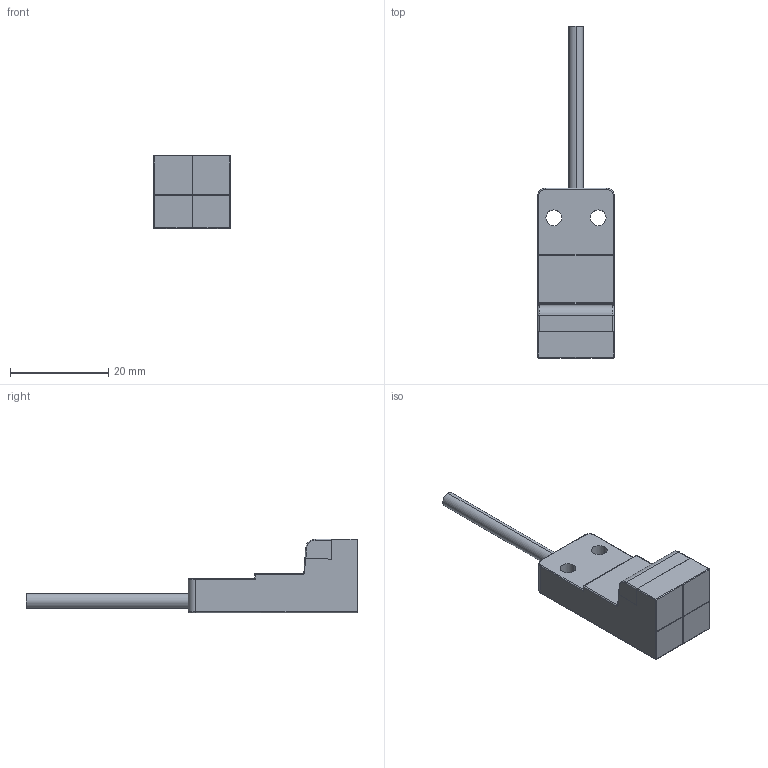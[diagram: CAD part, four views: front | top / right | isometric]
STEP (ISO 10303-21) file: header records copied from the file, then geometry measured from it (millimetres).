
FILE_DESCRIPTION (( 'STEP AP214' ), '1' );
FILE_NAME ('E16.STEP', '2015-09-23T09:35:54', ( '' ), ( '' ), 'SwSTEP 2.0', 'SolidWorks 2013', '' );
FILE_SCHEMA (( 'AUTOMOTIVE_DESIGN' ));
Length unit declared in the file: millimetre
Products named in the file (1): E16
Bounding box: 15.5 x 67.5 x 15 mm (x, y, z)
Volume: 5333.3 mm3; surface area: 2579.5 mm2
Topology: 1 solids, 1 shells, 85 faces, 210 edges, 123 vertices
Faces by surface type: cylinder 37, plane 31, torus 10, bspline 4, sphere 3
Entity records: 2709 total; most frequent: CARTESIAN_POINT 574, DIRECTION 411, ORIENTED_EDGE 410, EDGE_CURVE 205, AXIS2_PLACEMENT_3D 149, VERTEX_POINT 123, VECTOR 113, LINE 113
